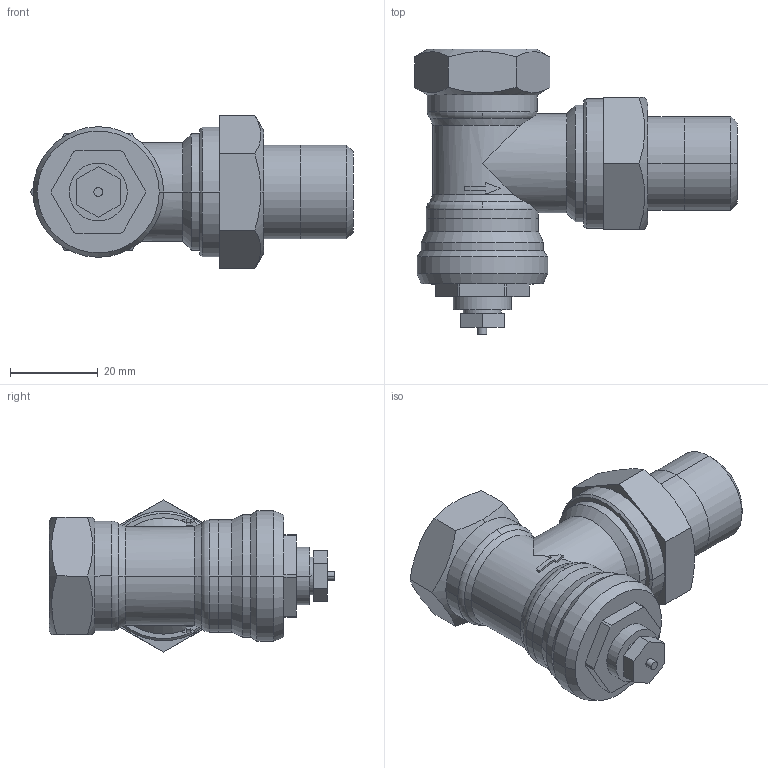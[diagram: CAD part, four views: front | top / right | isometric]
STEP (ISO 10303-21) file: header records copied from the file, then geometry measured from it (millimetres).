
FILE_DESCRIPTION((''),'2;1');
FILE_NAME('000021.stp','2006-09-29T17:14:35',(''),(''),'Mechanical Desktop 2006','Mechanical Desktop 2006',', , ');
FILE_SCHEMA(('AUTOMOTIVE_DESIGN { 1 2 10303 214 0 1 1 1 }'));
Length unit declared in the file: millimetre
Products named in the file (1): Product
Bounding box: 73.38 x 65 x 34.64 mm (x, y, z)
Volume: 44837.1 mm3; surface area: 13796.7 mm2
Topology: 10 solids, 10 shells, 128 faces, 295 edges, 189 vertices
Faces by surface type: plane 56, cylinder 36, cone 22, bspline 9, torus 5
Entity records: 3723 total; most frequent: CARTESIAN_POINT 788, DIRECTION 611, ORIENTED_EDGE 590, EDGE_CURVE 295, AXIS2_PLACEMENT_3D 230, VERTEX_POINT 189, VECTOR 151, LINE 151
